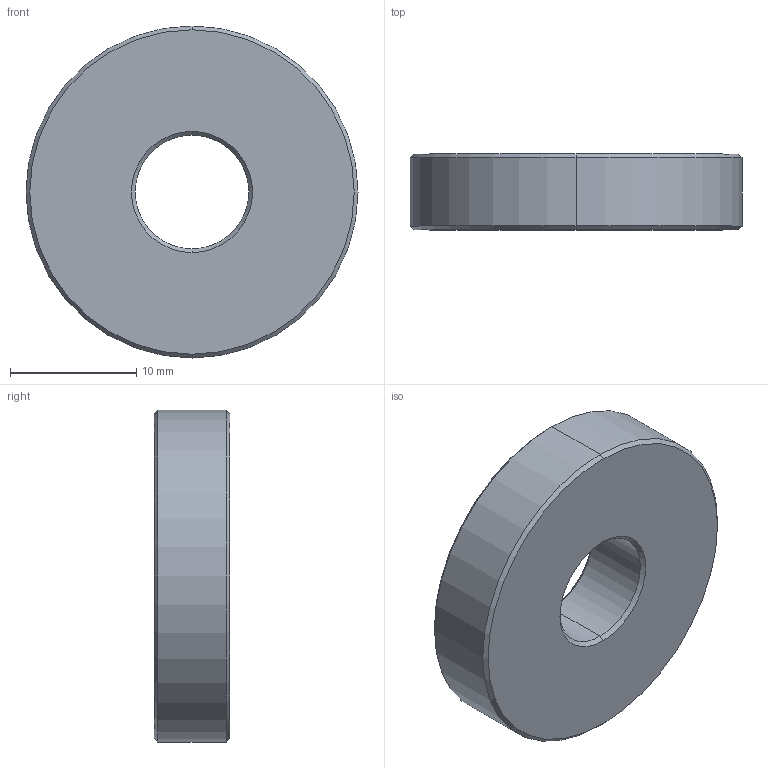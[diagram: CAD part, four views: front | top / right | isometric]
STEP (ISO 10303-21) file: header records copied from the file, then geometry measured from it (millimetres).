
FILE_DESCRIPTION (( 'STEP AP214' ), '1' );
FILE_NAME ('SM1×ªM10¡Á0.5.STEP', '2026-09-03T02:04:54', ( '' ), ( '' ), 'SwSTEP 2.0', 'SolidWorks 2024', '' );
FILE_SCHEMA (( 'AUTOMOTIVE_DESIGN' ));
Length unit declared in the file: millimetre
Products named in the file (1): SM1转M10×0.5
Bounding box: 26.29 x 6 x 26.29 mm (x, y, z)
Volume: 2846.3 mm3; surface area: 1622.3 mm2
Topology: 1 solids, 1 shells, 20 faces, 40 edges, 24 vertices
Faces by surface type: cone 8, cylinder 8, plane 4
Entity records: 551 total; most frequent: DIRECTION 106, CARTESIAN_POINT 85, ORIENTED_EDGE 80, AXIS2_PLACEMENT_3D 45, EDGE_CURVE 40, VERTEX_POINT 24, CIRCLE 24, EDGE_LOOP 24
